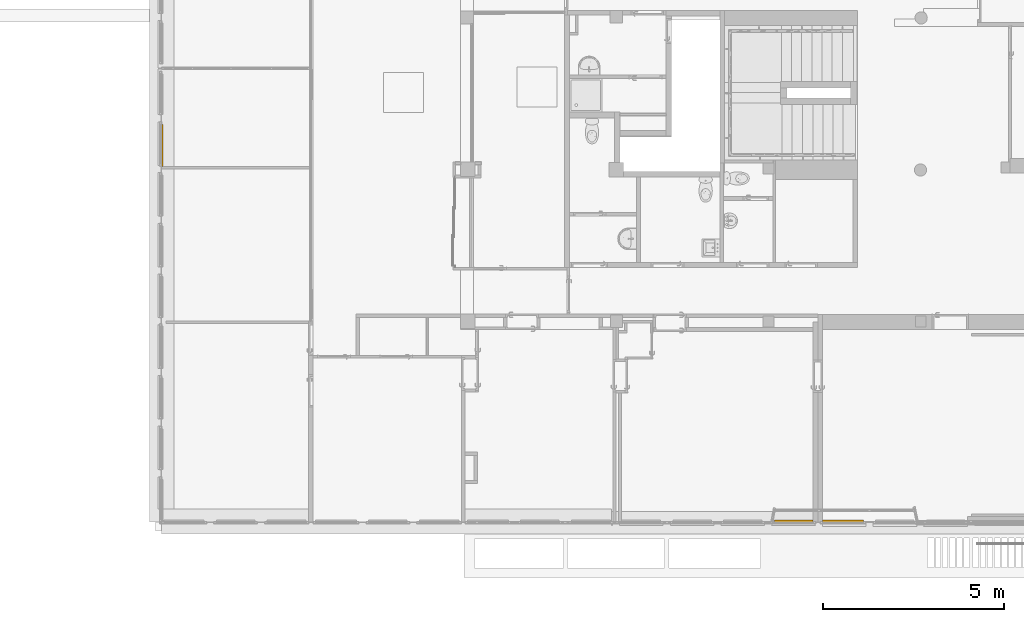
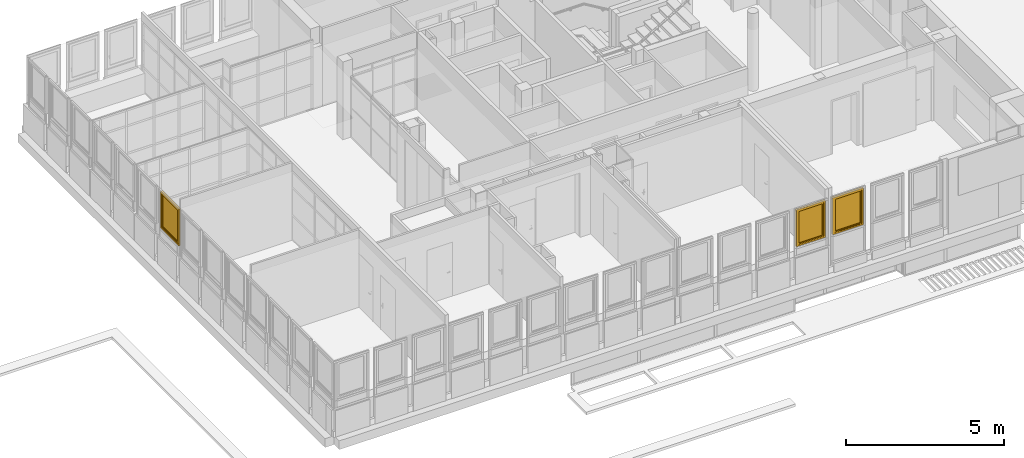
# One storey, part 91 of 97: 3 windows, 3 elements without a shape of their own.
"""IFC4 building model written with IfcOpenShell, lengths in metres."""

from ifc_helpers import new_model, entity, si_unit, converted_unit, derived_unit, direction, frame, origin, place, context, subcontext, project, spatial, polygons, source, transform, mapped, material, material_list, constituent, constituent_set, type_object, type_shapes, element, aggregate, save


model = new_model("IFC4")

# Units and contexts
model_context = context("Model", 3, precision=1e-05, world=origin(), true_north=direction((6.12303176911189e-17, 1.0)))
body_context = subcontext(model_context, "Body", "Model", "MODEL_VIEW")
ifc_project = project(units=[si_unit("LENGTHUNIT", "METRE"), si_unit("AREAUNIT", "SQUARE_METRE"), si_unit("VOLUMEUNIT", "CUBIC_METRE"), converted_unit("PLANEANGLEUNIT", "DEGREE", entity("IfcRatioMeasure", 0.0174532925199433), si_unit("PLANEANGLEUNIT", "RADIAN"), dimensions=[0, 0, 0, 0, 0, 0, 0]), si_unit("MASSUNIT", "GRAM", prefix="KILO"), derived_unit("MASSDENSITYUNIT", [(si_unit("MASSUNIT", "GRAM", prefix="KILO"), 1), (si_unit("LENGTHUNIT", "METRE"), -3)]), derived_unit("MOMENTOFINERTIAUNIT", [(si_unit("LENGTHUNIT", "METRE"), 4)]), si_unit("TIMEUNIT", "SECOND"), si_unit("FREQUENCYUNIT", "HERTZ"), si_unit("THERMODYNAMICTEMPERATUREUNIT", "DEGREE_CELSIUS"), derived_unit("THERMALTRANSMITTANCEUNIT", [(si_unit("MASSUNIT", "GRAM", prefix="KILO"), 1), (si_unit("THERMODYNAMICTEMPERATUREUNIT", "KELVIN"), -1), (si_unit("TIMEUNIT", "SECOND"), -3)]), derived_unit("VOLUMETRICFLOWRATEUNIT", [(si_unit("LENGTHUNIT", "METRE"), 3), (si_unit("TIMEUNIT", "SECOND"), -1)]), si_unit("ELECTRICCURRENTUNIT", "AMPERE"), si_unit("ELECTRICVOLTAGEUNIT", "VOLT"), si_unit("POWERUNIT", "WATT"), si_unit("FORCEUNIT", "NEWTON", prefix="KILO"), si_unit("ILLUMINANCEUNIT", "LUX"), si_unit("LUMINOUSFLUXUNIT", "LUMEN"), si_unit("LUMINOUSINTENSITYUNIT", "CANDELA"), derived_unit("USERDEFINED", [(si_unit("MASSUNIT", "GRAM", prefix="KILO"), -1), (si_unit("LENGTHUNIT", "METRE"), -2), (si_unit("TIMEUNIT", "SECOND"), 3), (si_unit("LUMINOUSFLUXUNIT", "LUMEN"), 1)]), derived_unit("LINEARVELOCITYUNIT", [(si_unit("LENGTHUNIT", "METRE"), 1), (si_unit("TIMEUNIT", "SECOND"), -1)]), si_unit("PRESSUREUNIT", "PASCAL"), derived_unit("USERDEFINED", [(si_unit("LENGTHUNIT", "METRE"), -2), (si_unit("MASSUNIT", "GRAM", prefix="KILO"), 1), (si_unit("TIMEUNIT", "SECOND"), -2)]), derived_unit("LINEARFORCEUNIT", [(si_unit("MASSUNIT", "GRAM", prefix="KILO"), 1), (si_unit("LENGTHUNIT", "METRE"), 1), (si_unit("TIMEUNIT", "SECOND"), -2), (si_unit("LENGTHUNIT", "METRE"), -1)]), derived_unit("PLANARFORCEUNIT", [(si_unit("MASSUNIT", "GRAM", prefix="KILO"), 1), (si_unit("LENGTHUNIT", "METRE"), 1), (si_unit("TIMEUNIT", "SECOND"), -2), (si_unit("LENGTHUNIT", "METRE"), -2)])], contexts=[model_context])

# Site, building, storey
site_placement = place(None, origin())
site = spatial("IfcSite", under=ifc_project, at=site_placement, Name="Default", CompositionType="ELEMENT")
building_placement = place(site_placement, origin())
building = spatial("IfcBuilding", under=site, at=building_placement, Name="HOTEL CONSULAIRE BOULOGNE SUR MER", CompositionType="ELEMENT")
storey_placement = place(building_placement, frame((0.0, 0.0, 3.62152697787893)))
storey = spatial("IfcBuildingStorey", under=building, at=storey_placement, Name="Niveau 1", CompositionType="ELEMENT", Elevation=3.62152697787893)

# Curtain wall, window
curtain_wall_type = type_object("IfcCurtainWallType", Name="Mur-rideau:Simple panneau", PredefinedType="NOTDEFINED")
curtain_wall_1_placement = place(storey_placement, frame((0.0, 0.0, -3.62152697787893)))
curtain_wall_1 = element("IfcCurtainWall", 1, at=curtain_wall_1_placement, inside=storey, type_object=curtain_wall_type, Name="Mur-rideau:Simple panneau", ObjectType="Mur-rideau:Simple panneau", PredefinedType="NOTDEFINED")
ifc_material_1 = material(Name="PVC - Blanc", Category="Plastique")
ifc_constituent_1 = constituent(ifc_material_1, Name="PVC - Blanc", Category="Matériaux")
ifc_material_2 = material(Name="Fenêtre - Vitrage", Category="Verre")
ifc_constituent_2 = constituent(ifc_material_2, Name="Fenêtre - Vitrage", Category="Matériaux")
ifc_constituent_set_1 = constituent_set(constituents=[ifc_constituent_1, ifc_constituent_2], Name="MaterialConstituentSet")
ifc_material_list_1 = material_list([ifc_material_1, ifc_material_1])
window_type_1 = type_object("IfcWindowType", Name="MR 1 Vantail:MR 1 Vantail", PartitioningType="NOTDEFINED", PredefinedType="WINDOW", material=ifc_material_list_1)
shared_shape_1 = source(origin(), body_context, "Body", "Tessellation", [
    polygons([(-0.508588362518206, -0.0492408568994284, 0.472033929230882), (-0.497296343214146, -0.0492408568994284, 0.472033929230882), (-0.495908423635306, -0.0492408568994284, 0.470646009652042), (-0.495908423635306, -0.0492408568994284, 0.459332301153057), (-0.497274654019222, -0.0492408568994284, 0.457966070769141), (-0.508610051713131, -0.0492408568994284, 0.457966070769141), (-0.509976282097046, -0.0492408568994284, 0.459332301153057), (-0.509976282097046, -0.0492408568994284, 0.470646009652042), (-0.509976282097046, -0.0615795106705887, 0.470646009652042), (-0.508588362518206, -0.0621544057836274, 0.472033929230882), (-0.509976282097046, -0.0568932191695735, 0.459332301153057), (-0.509976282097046, -0.0635731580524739, 0.452652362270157), (-0.509976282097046, -0.0635731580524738, 0.370000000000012), (-0.509976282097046, -0.0748868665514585, 0.370000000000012), (-0.509976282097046, -0.0748868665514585, 0.457338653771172), (-0.508610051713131, -0.0563273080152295, 0.457966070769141), (-0.497274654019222, -0.0563273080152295, 0.457966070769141), (-0.495908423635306, -0.0568932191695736, 0.459332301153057), (-0.495908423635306, -0.0615795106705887, 0.470646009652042), (-0.495908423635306, -0.0748868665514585, 0.457338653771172), (-0.495908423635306, -0.0748868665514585, 0.370000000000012), (-0.495908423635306, -0.0635731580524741, 0.370000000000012), (-0.495908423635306, -0.0635731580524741, 0.452652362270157), (-0.497296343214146, -0.0621544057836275, 0.472033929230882), (-0.508588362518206, -0.0762747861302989, 0.457913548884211), (-0.508610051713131, -0.0622069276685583, 0.452086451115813), (-0.497274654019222, -0.0622069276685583, 0.452086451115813), (-0.497296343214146, -0.0762747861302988, 0.457913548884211), (-0.508588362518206, -0.0762747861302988, 0.370000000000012), (-0.508610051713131, -0.0622069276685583, 0.370000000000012), (-0.497274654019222, -0.0622069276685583, 0.370000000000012), (-0.497296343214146, -0.0762747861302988, 0.370000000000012)], [[[6, 7, 8, 1, 2, 3, 4, 5]], [[30, 26, 27, 31]], [[9, 10, 1, 8]], [[11, 12, 13, 14, 15, 9, 8, 7]], [[16, 11, 7, 6]], [[16, 6, 5, 17]], [[31, 22, 21, 32, 29, 14, 13, 30]], [[17, 5, 4, 18]], [[3, 19, 20, 21, 22, 23, 18, 4]], [[19, 3, 2, 24]], [[24, 2, 1, 10]], [[15, 25, 10, 9]], [[26, 12, 11, 16]], [[27, 26, 16, 17]], [[27, 17, 18, 23]], [[20, 19, 24, 28]], [[28, 24, 10, 25]], [[29, 25, 15, 14]], [[13, 12, 26, 30]], [[22, 31, 27, 23]], [[32, 21, 20, 28]], [[32, 28, 25, 29]]], closed=True),
    polygons([(-0.50994235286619, -0.0432408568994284, 0.490000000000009), (-0.495942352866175, -0.0432408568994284, 0.490000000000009), (-0.490942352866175, -0.0432408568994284, 0.48500000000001), (-0.490942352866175, -0.0432408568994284, 0.414999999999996), (-0.495942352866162, -0.0432408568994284, 0.410000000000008), (-0.50994235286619, -0.0432408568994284, 0.410000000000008), (-0.514942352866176, -0.0432408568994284, 0.414999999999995), (-0.514942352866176, -0.0432408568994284, 0.48500000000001), (-0.50994235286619, -0.0492408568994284, 0.490000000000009), (-0.514942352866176, -0.0492408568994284, 0.48500000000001), (-0.514942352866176, -0.0492408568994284, 0.414999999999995), (-0.50994235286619, -0.0492408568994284, 0.410000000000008), (-0.495942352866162, -0.0492408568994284, 0.410000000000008), (-0.490942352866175, -0.0492408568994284, 0.414999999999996), (-0.490942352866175, -0.0492408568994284, 0.48500000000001), (-0.495942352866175, -0.0492408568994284, 0.490000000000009)], [[[2, 3, 4, 5, 6, 7, 8, 1]], [[13, 14, 15, 16, 9, 10, 11, 12]], [[9, 1, 8, 10]], [[10, 8, 7, 11]], [[11, 7, 6, 12]], [[12, 6, 5, 13]], [[13, 5, 4, 14]], [[15, 14, 4, 3]], [[15, 3, 2, 16]], [[16, 2, 1, 9]]], closed=True),
    polygons([(0.477942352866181, -0.0192408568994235, 1.32586048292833), (-0.477942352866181, -0.0192408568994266, 1.32586048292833), (-0.477942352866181, -0.0192408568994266, 0.1), (0.477942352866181, -0.0192408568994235, 0.1), (0.477942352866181, -0.00724085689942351, 1.32586048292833), (0.477942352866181, -0.00724085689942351, 0.1), (-0.477942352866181, -0.0072408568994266, 0.1), (-0.477942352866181, -0.0072408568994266, 1.32586048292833)], [[[4, 1, 2, 3]], [[7, 8, 5, 6]], [[2, 1, 5, 8]], [[3, 2, 8, 7]], [[4, 3, 7, 6]], [[1, 4, 6, 5]]], closed=True),
    polygons([(-0.527942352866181, 0.0167591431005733, 1.37586048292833), (-0.527942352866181, -0.043240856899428, 1.37586048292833), (0.527942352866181, -0.043240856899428, 1.37586048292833), (0.52794235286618, 0.0167591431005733, 1.37586048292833), (-0.477942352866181, -0.043240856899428, 1.32586048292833), (-0.477942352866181, 0.0167591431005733, 1.32586048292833), (0.477942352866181, 0.0167591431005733, 1.32586048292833), (0.477942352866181, -0.043240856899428, 1.32586048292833), (0.52794235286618, -0.043240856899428, 0.0500000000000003), (0.52794235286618, 0.0167591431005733, 0.0500000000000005), (0.477942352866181, 0.0167591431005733, 0.1), (0.477942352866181, -0.043240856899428, 0.1), (-0.527942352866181, -0.043240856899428, 0.0500000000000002), (-0.527942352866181, 0.0167591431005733, 0.0500000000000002), (-0.477942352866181, 0.0167591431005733, 0.1), (-0.477942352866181, -0.043240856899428, 0.1)], [[[1, 2, 3, 4]], [[12, 11, 15, 16]], [[5, 6, 7, 8]], [[10, 9, 13, 14]], [[4, 3, 9, 10]], [[16, 15, 6, 5]], [[8, 7, 11, 12]], [[14, 13, 2, 1]], [[9, 3, 2, 13], [16, 5, 8, 12]], [[14, 1, 4, 10], [11, 7, 6, 15]]], closed=True),
    polygons([(-0.51794235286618, 0.016759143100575, 1.36586048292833), (-0.51794235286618, 0.0267591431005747, 1.36586048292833), (0.51794235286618, 0.0267591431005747, 1.36586048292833), (0.51794235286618, 0.016759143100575, 1.36586048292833), (-0.52794235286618, -0.0432408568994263, 1.37586048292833), (-0.52794235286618, 0.016759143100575, 1.37586048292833), (0.52794235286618, 0.016759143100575, 1.37586048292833), (0.52794235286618, -0.0432408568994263, 1.37586048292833), (-0.57794235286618, 0.0267591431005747, 1.42586048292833), (-0.57794235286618, -0.0432408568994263, 1.42586048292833), (0.57794235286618, -0.0432408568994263, 1.42586048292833), (0.57794235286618, 0.0267591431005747, 1.42586048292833), (0.51794235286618, 0.0267591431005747, 0.0600000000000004), (0.51794235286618, 0.016759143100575, 0.0600000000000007), (0.52794235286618, 0.016759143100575, 0.0500000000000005), (0.52794235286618, -0.0432408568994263, 0.0500000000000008), (0.57794235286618, -0.0432408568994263, 5.41433564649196e-16), (0.57794235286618, 0.0267591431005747, 5.41433564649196e-16), (-0.51794235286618, 0.0267591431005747, 0.0600000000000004), (-0.51794235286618, 0.016759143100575, 0.0600000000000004), (-0.52794235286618, 0.016759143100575, 0.0500000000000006), (-0.52794235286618, -0.0432408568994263, 0.0500000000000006), (-0.57794235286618, -0.0432408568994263, 6.09112760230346e-16), (-0.57794235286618, 0.0267591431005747, 6.09112760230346e-16)], [[[1, 2, 3, 4]], [[5, 6, 7, 8]], [[18, 17, 23, 24]], [[9, 10, 11, 12]], [[14, 13, 19, 20]], [[16, 15, 21, 22]], [[4, 3, 13, 14]], [[8, 7, 15, 16]], [[24, 23, 10, 9]], [[12, 11, 17, 18]], [[20, 19, 2, 1]], [[22, 21, 6, 5]], [[24, 9, 12, 18], [13, 3, 2, 19]], [[15, 7, 6, 21], [20, 1, 4, 14]], [[17, 11, 10, 23], [22, 5, 8, 16]]], closed=True),
])
type_shapes(window_type_1, [shared_shape_1])
window_1_placement = place(curtain_wall_1_placement, frame((-13.7870998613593, -19.1593922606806, 4.79613951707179), z_axis=(0.0, 0.0, 1.0), x_axis=(0.0, 1.0, 0.0)))
window_1 = element("IfcWindow", 2, at=window_1_placement, type_object=window_type_1, material=ifc_constituent_set_1, Name="MR 1 Vantail:MR 1 Vantail", ObjectType="MR 1 Vantail:MR 1 Vantail", OverallHeight=1.42586048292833, OverallWidth=1.15588470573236, PartitioningType="NOTDEFINED", PredefinedType="WINDOW", context=body_context, shape_type="MappedRepresentation", body=[
    mapped(shared_shape_1, transform((0.0, 0.0, 0.0), scale=1.0)),
])
aggregate(curtain_wall_1, [window_1])

curtain_wall_2_placement = place(storey_placement, frame((0.0, 0.0, -3.62152697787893)))
curtain_wall_2 = element("IfcCurtainWall", 3, at=curtain_wall_2_placement, inside=storey, type_object=curtain_wall_type, Name="Mur-rideau:Simple panneau", ObjectType="Mur-rideau:Simple panneau", PredefinedType="NOTDEFINED")
ifc_constituent_3 = constituent(ifc_material_1, Name="PVC - Blanc", Category="Matériaux")
ifc_constituent_4 = constituent(ifc_material_2, Name="Fenêtre - Vitrage", Category="Matériaux")
ifc_constituent_set_2 = constituent_set(constituents=[ifc_constituent_3, ifc_constituent_4], Name="MaterialConstituentSet")
ifc_material_list_2 = material_list([ifc_material_1, ifc_material_1])
window_type_2 = type_object("IfcWindowType", Name="MR 1 Vantail:MR 1 Vantail", PartitioningType="NOTDEFINED", PredefinedType="WINDOW", material=ifc_material_list_2)
shared_shape_2 = source(origin(), body_context, "Body", "Tessellation", [
    polygons([(-0.465646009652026, -0.0492408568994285, 0.472033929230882), (-0.454353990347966, -0.0492408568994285, 0.472033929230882), (-0.452966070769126, -0.0492408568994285, 0.470646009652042), (-0.452966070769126, -0.0492408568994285, 0.459332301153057), (-0.454332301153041, -0.0492408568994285, 0.457966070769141), (-0.465667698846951, -0.0492408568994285, 0.457966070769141), (-0.467033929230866, -0.0492408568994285, 0.459332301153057), (-0.467033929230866, -0.0492408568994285, 0.470646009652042), (-0.467033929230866, -0.0615795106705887, 0.470646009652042), (-0.465646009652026, -0.0621544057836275, 0.472033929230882), (-0.467033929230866, -0.0568932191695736, 0.459332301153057), (-0.467033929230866, -0.063573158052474, 0.452652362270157), (-0.467033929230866, -0.0635731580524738, 0.370000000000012), (-0.467033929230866, -0.0748868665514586, 0.370000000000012), (-0.467033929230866, -0.0748868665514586, 0.457338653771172), (-0.465667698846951, -0.0563273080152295, 0.457966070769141), (-0.454332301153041, -0.0563273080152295, 0.457966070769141), (-0.452966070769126, -0.0568932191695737, 0.459332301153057), (-0.452966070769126, -0.0615795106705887, 0.470646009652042), (-0.452966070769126, -0.0748868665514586, 0.457338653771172), (-0.452966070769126, -0.0748868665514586, 0.370000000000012), (-0.452966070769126, -0.0635731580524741, 0.370000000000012), (-0.452966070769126, -0.0635731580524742, 0.452652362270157), (-0.454353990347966, -0.0621544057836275, 0.472033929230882), (-0.465646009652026, -0.0762747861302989, 0.457913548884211), (-0.465667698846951, -0.0622069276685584, 0.452086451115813), (-0.454332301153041, -0.0622069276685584, 0.452086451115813), (-0.454353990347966, -0.0762747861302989, 0.457913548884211), (-0.465646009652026, -0.0762747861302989, 0.370000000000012), (-0.465667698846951, -0.0622069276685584, 0.370000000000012), (-0.454332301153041, -0.0622069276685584, 0.370000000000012), (-0.454353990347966, -0.0762747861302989, 0.370000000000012)], [[[6, 7, 8, 1, 2, 3, 4, 5]], [[30, 26, 27, 31]], [[9, 10, 1, 8]], [[11, 12, 13, 14, 15, 9, 8, 7]], [[16, 11, 7, 6]], [[16, 6, 5, 17]], [[31, 22, 21, 32, 29, 14, 13, 30]], [[17, 5, 4, 18]], [[3, 19, 20, 21, 22, 23, 18, 4]], [[19, 3, 2, 24]], [[24, 2, 1, 10]], [[15, 25, 10, 9]], [[26, 12, 11, 16]], [[27, 26, 16, 17]], [[27, 17, 18, 23]], [[20, 19, 24, 28]], [[28, 24, 10, 25]], [[29, 25, 15, 14]], [[13, 12, 26, 30]], [[22, 31, 27, 23]], [[32, 21, 20, 28]], [[32, 28, 25, 29]]], closed=True),
    polygons([(-0.46700000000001, -0.0432408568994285, 0.490000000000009), (-0.452999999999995, -0.0432408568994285, 0.490000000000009), (-0.447999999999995, -0.0432408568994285, 0.48500000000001), (-0.447999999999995, -0.0432408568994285, 0.414999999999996), (-0.452999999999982, -0.0432408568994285, 0.410000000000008), (-0.46700000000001, -0.0432408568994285, 0.410000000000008), (-0.471999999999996, -0.0432408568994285, 0.414999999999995), (-0.471999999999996, -0.0432408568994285, 0.48500000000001), (-0.46700000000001, -0.0492408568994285, 0.490000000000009), (-0.471999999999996, -0.0492408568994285, 0.48500000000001), (-0.471999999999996, -0.0492408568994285, 0.414999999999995), (-0.46700000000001, -0.0492408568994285, 0.410000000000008), (-0.452999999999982, -0.0492408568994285, 0.410000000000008), (-0.447999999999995, -0.0492408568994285, 0.414999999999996), (-0.447999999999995, -0.0492408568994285, 0.48500000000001), (-0.452999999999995, -0.0492408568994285, 0.490000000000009)], [[[2, 3, 4, 5, 6, 7, 8, 1]], [[13, 14, 15, 16, 9, 10, 11, 12]], [[9, 1, 8, 10]], [[10, 8, 7, 11]], [[11, 7, 6, 12]], [[12, 6, 5, 13]], [[13, 5, 4, 14]], [[15, 14, 4, 3]], [[15, 3, 2, 16]], [[16, 2, 1, 9]]], closed=True),
    polygons([(0.435, -0.0192408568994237, 1.32586048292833), (-0.435000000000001, -0.0192408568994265, 1.32586048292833), (-0.435000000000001, -0.0192408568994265, 0.1), (0.435, -0.0192408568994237, 0.1), (0.435, -0.00724085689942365, 1.32586048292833), (0.435, -0.00724085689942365, 0.1), (-0.435000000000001, -0.00724085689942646, 0.1), (-0.435000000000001, -0.00724085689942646, 1.32586048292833)], [[[4, 1, 2, 3]], [[7, 8, 5, 6]], [[2, 1, 5, 8]], [[3, 2, 8, 7]], [[4, 3, 7, 6]], [[1, 4, 6, 5]]], closed=True),
    polygons([(-0.485, 0.0167591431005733, 1.37586048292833), (-0.485, -0.043240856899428, 1.37586048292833), (0.485, -0.043240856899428, 1.37586048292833), (0.485, 0.0167591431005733, 1.37586048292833), (-0.435000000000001, -0.043240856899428, 1.32586048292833), (-0.435000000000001, 0.0167591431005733, 1.32586048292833), (0.435000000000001, 0.0167591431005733, 1.32586048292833), (0.435000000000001, -0.043240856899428, 1.32586048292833), (0.485, -0.043240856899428, 0.0500000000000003), (0.485, 0.0167591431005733, 0.0500000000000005), (0.435, 0.0167591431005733, 0.1), (0.435, -0.043240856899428, 0.1), (-0.485, -0.043240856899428, 0.0500000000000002), (-0.485, 0.0167591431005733, 0.0500000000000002), (-0.435000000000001, 0.0167591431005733, 0.1), (-0.435000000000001, -0.043240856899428, 0.1)], [[[1, 2, 3, 4]], [[12, 11, 15, 16]], [[5, 6, 7, 8]], [[10, 9, 13, 14]], [[4, 3, 9, 10]], [[16, 15, 6, 5]], [[8, 7, 11, 12]], [[14, 13, 2, 1]], [[9, 3, 2, 13], [16, 5, 8, 12]], [[14, 1, 4, 10], [11, 7, 6, 15]]], closed=True),
    polygons([(-0.475, 0.016759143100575, 1.36586048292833), (-0.475, 0.0267591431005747, 1.36586048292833), (0.475, 0.0267591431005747, 1.36586048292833), (0.475, 0.016759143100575, 1.36586048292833), (-0.485, -0.0432408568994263, 1.37586048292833), (-0.485, 0.016759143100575, 1.37586048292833), (0.485, 0.016759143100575, 1.37586048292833), (0.485, -0.0432408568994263, 1.37586048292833), (-0.535, 0.0267591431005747, 1.42586048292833), (-0.535, -0.0432408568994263, 1.42586048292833), (0.535, -0.0432408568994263, 1.42586048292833), (0.535, 0.0267591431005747, 1.42586048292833), (0.475, 0.0267591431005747, 0.0600000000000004), (0.475, 0.016759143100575, 0.0600000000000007), (0.485, 0.016759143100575, 0.0500000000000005), (0.485, -0.0432408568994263, 0.0500000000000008), (0.535, -0.0432408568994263, 5.41433564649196e-16), (0.535, 0.0267591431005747, 5.41433564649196e-16), (-0.475, 0.0267591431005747, 0.0600000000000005), (-0.475, 0.016759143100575, 0.0600000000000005), (-0.485, 0.016759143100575, 0.0500000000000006), (-0.485, -0.0432408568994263, 0.0500000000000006), (-0.535, -0.0432408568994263, 5.41433564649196e-16), (-0.535, 0.0267591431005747, 5.41433564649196e-16)], [[[1, 2, 3, 4]], [[5, 6, 7, 8]], [[18, 17, 23, 24]], [[9, 10, 11, 12]], [[14, 13, 19, 20]], [[16, 15, 21, 22]], [[4, 3, 13, 14]], [[8, 7, 15, 16]], [[24, 23, 10, 9]], [[12, 11, 17, 18]], [[20, 19, 2, 1]], [[22, 21, 6, 5]], [[24, 9, 12, 18], [13, 3, 2, 19]], [[15, 7, 6, 21], [20, 1, 4, 14]], [[17, 11, 10, 23], [22, 5, 8, 16]]], closed=True),
])
type_shapes(window_type_2, [shared_shape_2])
window_2_placement = place(curtain_wall_2_placement, frame((3.66358002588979, -29.5501047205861, 4.79613951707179), z_axis=(0.0, 0.0, 1.0), x_axis=(-1.0, 0.0, 0.0)))
window_2 = element("IfcWindow", 4, at=window_2_placement, type_object=window_type_2, material=ifc_constituent_set_2, Name="MR 1 Vantail:MR 1 Vantail", ObjectType="MR 1 Vantail:MR 1 Vantail", OverallHeight=1.42586048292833, OverallWidth=1.07, PartitioningType="NOTDEFINED", PredefinedType="WINDOW", context=body_context, shape_type="MappedRepresentation", body=[
    mapped(shared_shape_2, transform((0.0, 0.0, 0.0), scale=1.0)),
])
aggregate(curtain_wall_2, [window_2])

curtain_wall_3_placement = place(storey_placement, frame((0.0, 0.0, -3.62152697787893)))
curtain_wall_3 = element("IfcCurtainWall", 5, at=curtain_wall_3_placement, inside=storey, type_object=curtain_wall_type, Name="Mur-rideau:Simple panneau", ObjectType="Mur-rideau:Simple panneau", PredefinedType="NOTDEFINED")
ifc_constituent_5 = constituent(ifc_material_1, Name="PVC - Blanc", Category="Matériaux")
ifc_constituent_6 = constituent(ifc_material_2, Name="Fenêtre - Vitrage", Category="Matériaux")
ifc_constituent_set_3 = constituent_set(constituents=[ifc_constituent_5, ifc_constituent_6], Name="MaterialConstituentSet")
ifc_material_list_3 = material_list([ifc_material_1, ifc_material_1])
window_type_3 = type_object("IfcWindowType", Name="MR 1 Vantail:MR 1 Vantail", PartitioningType="NOTDEFINED", PredefinedType="WINDOW", material=ifc_material_list_3)
shared_shape_3 = source(origin(), body_context, "Body", "Tessellation", [
    polygons([(-0.493146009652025, -0.0492408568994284, 0.472033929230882), (-0.481853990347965, -0.0492408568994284, 0.472033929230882), (-0.480466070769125, -0.0492408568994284, 0.470646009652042), (-0.480466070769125, -0.0492408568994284, 0.459332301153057), (-0.48183230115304, -0.0492408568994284, 0.457966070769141), (-0.49316769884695, -0.0492408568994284, 0.457966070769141), (-0.494533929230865, -0.0492408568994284, 0.459332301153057), (-0.494533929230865, -0.0492408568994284, 0.470646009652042), (-0.494533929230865, -0.0615795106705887, 0.470646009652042), (-0.493146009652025, -0.0621544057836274, 0.472033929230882), (-0.494533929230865, -0.0568932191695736, 0.459332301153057), (-0.494533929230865, -0.063573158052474, 0.452652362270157), (-0.494533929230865, -0.0635731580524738, 0.370000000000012), (-0.494533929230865, -0.0748868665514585, 0.370000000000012), (-0.494533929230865, -0.0748868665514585, 0.457338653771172), (-0.49316769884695, -0.0563273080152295, 0.457966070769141), (-0.48183230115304, -0.0563273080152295, 0.457966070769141), (-0.480466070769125, -0.0568932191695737, 0.459332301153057), (-0.480466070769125, -0.0615795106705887, 0.470646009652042), (-0.480466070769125, -0.0748868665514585, 0.457338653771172), (-0.480466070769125, -0.0748868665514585, 0.370000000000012), (-0.480466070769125, -0.0635731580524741, 0.370000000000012), (-0.480466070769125, -0.0635731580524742, 0.452652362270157), (-0.481853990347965, -0.0621544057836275, 0.472033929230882), (-0.493146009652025, -0.0762747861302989, 0.457913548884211), (-0.49316769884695, -0.0622069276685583, 0.452086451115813), (-0.48183230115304, -0.0622069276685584, 0.452086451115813), (-0.481853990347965, -0.0762747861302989, 0.457913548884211), (-0.493146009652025, -0.0762747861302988, 0.370000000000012), (-0.49316769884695, -0.0622069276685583, 0.370000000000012), (-0.48183230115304, -0.0622069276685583, 0.370000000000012), (-0.481853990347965, -0.0762747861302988, 0.370000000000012)], [[[6, 7, 8, 1, 2, 3, 4, 5]], [[30, 26, 27, 31]], [[9, 10, 1, 8]], [[11, 12, 13, 14, 15, 9, 8, 7]], [[16, 11, 7, 6]], [[16, 6, 5, 17]], [[31, 22, 21, 32, 29, 14, 13, 30]], [[17, 5, 4, 18]], [[3, 19, 20, 21, 22, 23, 18, 4]], [[19, 3, 2, 24]], [[24, 2, 1, 10]], [[15, 25, 10, 9]], [[26, 12, 11, 16]], [[27, 26, 16, 17]], [[27, 17, 18, 23]], [[20, 19, 24, 28]], [[28, 24, 10, 25]], [[29, 25, 15, 14]], [[13, 12, 26, 30]], [[22, 31, 27, 23]], [[32, 21, 20, 28]], [[32, 28, 25, 29]]], closed=True),
    polygons([(-0.494500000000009, -0.0432408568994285, 0.490000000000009), (-0.480499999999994, -0.0432408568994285, 0.490000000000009), (-0.475499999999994, -0.0432408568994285, 0.48500000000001), (-0.475499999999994, -0.0432408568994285, 0.414999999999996), (-0.480499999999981, -0.0432408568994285, 0.410000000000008), (-0.494500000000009, -0.0432408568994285, 0.410000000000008), (-0.499499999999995, -0.0432408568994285, 0.414999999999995), (-0.499499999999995, -0.0432408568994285, 0.48500000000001), (-0.494500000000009, -0.0492408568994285, 0.490000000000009), (-0.499499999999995, -0.0492408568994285, 0.48500000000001), (-0.499499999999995, -0.0492408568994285, 0.414999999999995), (-0.494500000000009, -0.0492408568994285, 0.410000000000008), (-0.480499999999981, -0.0492408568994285, 0.410000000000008), (-0.475499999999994, -0.0492408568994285, 0.414999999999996), (-0.475499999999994, -0.0492408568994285, 0.48500000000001), (-0.480499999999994, -0.0492408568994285, 0.490000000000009)], [[[2, 3, 4, 5, 6, 7, 8, 1]], [[13, 14, 15, 16, 9, 10, 11, 12]], [[9, 1, 8, 10]], [[10, 8, 7, 11]], [[11, 7, 6, 12]], [[12, 6, 5, 13]], [[13, 5, 4, 14]], [[15, 14, 4, 3]], [[15, 3, 2, 16]], [[16, 2, 1, 9]]], closed=True),
    polygons([(0.4625, -0.0192408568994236, 1.32537070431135), (-0.4625, -0.0192408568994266, 1.32537070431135), (-0.4625, -0.0192408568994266, 0.1), (0.4625, -0.0192408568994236, 0.1), (0.4625, -0.00724085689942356, 1.32537070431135), (0.4625, -0.00724085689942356, 0.1), (-0.4625, -0.00724085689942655, 0.1), (-0.4625, -0.00724085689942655, 1.32537070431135)], [[[4, 1, 2, 3]], [[7, 8, 5, 6]], [[2, 1, 5, 8]], [[3, 2, 8, 7]], [[4, 3, 7, 6]], [[1, 4, 6, 5]]], closed=True),
    polygons([(-0.5125, 0.0167591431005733, 1.37537070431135), (-0.5125, -0.043240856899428, 1.37537070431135), (0.512499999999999, -0.043240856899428, 1.37537070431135), (0.512499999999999, 0.0167591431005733, 1.37537070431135), (-0.4625, -0.043240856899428, 1.32537070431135), (-0.4625, 0.0167591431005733, 1.32537070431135), (0.4625, 0.0167591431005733, 1.32537070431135), (0.4625, -0.043240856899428, 1.32537070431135), (0.512499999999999, -0.043240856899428, 0.0500000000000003), (0.512499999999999, 0.0167591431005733, 0.0500000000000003), (0.4625, 0.0167591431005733, 0.1), (0.4625, -0.043240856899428, 0.1), (-0.5125, -0.043240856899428, 0.0500000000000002), (-0.5125, 0.0167591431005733, 0.0500000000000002), (-0.4625, 0.0167591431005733, 0.1), (-0.4625, -0.043240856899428, 0.1)], [[[1, 2, 3, 4]], [[12, 11, 15, 16]], [[5, 6, 7, 8]], [[10, 9, 13, 14]], [[4, 3, 9, 10]], [[16, 15, 6, 5]], [[8, 7, 11, 12]], [[14, 13, 2, 1]], [[9, 3, 2, 13], [16, 5, 8, 12]], [[14, 1, 4, 10], [11, 7, 6, 15]]], closed=True),
    polygons([(-0.502499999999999, 0.016759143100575, 1.36537070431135), (-0.502499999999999, 0.0267591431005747, 1.36537070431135), (0.502499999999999, 0.0267591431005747, 1.36537070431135), (0.502499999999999, 0.016759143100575, 1.36537070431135), (-0.512499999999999, -0.0432408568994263, 1.37537070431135), (-0.512499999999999, 0.016759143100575, 1.37537070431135), (0.512499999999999, 0.016759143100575, 1.37537070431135), (0.512499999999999, -0.0432408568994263, 1.37537070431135), (-0.562499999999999, 0.0267591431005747, 1.42537070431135), (-0.562499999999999, -0.0432408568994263, 1.42537070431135), (0.562499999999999, -0.0432408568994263, 1.42537070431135), (0.562499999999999, 0.0267591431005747, 1.42537070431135), (0.502499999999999, 0.0267591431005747, 0.0600000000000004), (0.502499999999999, 0.016759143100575, 0.0600000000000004), (0.512499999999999, 0.016759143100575, 0.0500000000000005), (0.512499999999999, -0.0432408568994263, 0.0500000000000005), (0.562499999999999, -0.0432408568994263, 5.41433564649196e-16), (0.562499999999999, 0.0267591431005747, 5.41433564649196e-16), (-0.502499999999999, 0.0267591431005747, 0.0600000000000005), (-0.502499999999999, 0.016759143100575, 0.0600000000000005), (-0.512499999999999, 0.016759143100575, 0.0500000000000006), (-0.512499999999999, -0.0432408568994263, 0.0500000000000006), (-0.562499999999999, -0.0432408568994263, 6.09112760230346e-16), (-0.562499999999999, 0.0267591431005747, 6.09112760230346e-16)], [[[1, 2, 3, 4]], [[5, 6, 7, 8]], [[18, 17, 23, 24]], [[9, 10, 11, 12]], [[14, 13, 19, 20]], [[16, 15, 21, 22]], [[4, 3, 13, 14]], [[8, 7, 15, 16]], [[24, 23, 10, 9]], [[12, 11, 17, 18]], [[20, 19, 2, 1]], [[22, 21, 6, 5]], [[24, 9, 12, 18], [13, 3, 2, 19]], [[15, 7, 6, 21], [20, 1, 4, 14]], [[17, 11, 10, 23], [22, 5, 8, 16]]], closed=True),
])
type_shapes(window_type_3, [shared_shape_3])
window_3_placement = place(curtain_wall_3_placement, frame((5.02608002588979, -29.5501047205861, 4.79662929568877), z_axis=(0.0, 0.0, 1.0), x_axis=(-1.0, 0.0, 0.0)))
window_3 = element("IfcWindow", 6, at=window_3_placement, type_object=window_type_3, material=ifc_constituent_set_3, Name="MR 1 Vantail:MR 1 Vantail", ObjectType="MR 1 Vantail:MR 1 Vantail", OverallHeight=1.42537070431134, OverallWidth=1.125, PartitioningType="NOTDEFINED", PredefinedType="WINDOW", context=body_context, shape_type="MappedRepresentation", body=[
    mapped(shared_shape_3, transform((0.0, 0.0, 0.0), scale=1.0)),
])
aggregate(curtain_wall_3, [window_3])

save(model, "model.ifc")
